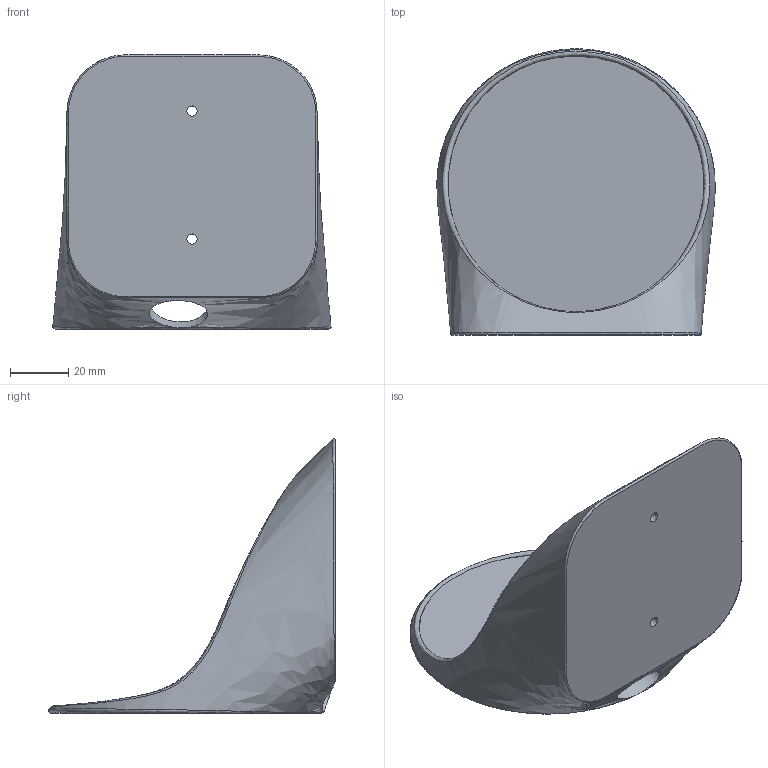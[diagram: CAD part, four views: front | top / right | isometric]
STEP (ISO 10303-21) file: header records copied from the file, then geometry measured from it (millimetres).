
FILE_DESCRIPTION(/* description */ (''),/* implementation_level */ '2;1');
FILE_NAME(/* name */ '/var/folders/zr/q7qmq9h575d8fb11zs4zv4yr0000gn/T/com.autodesk.mas.fusion360/Neutron/f92defc6-1cca-4b0e-8c0c-8bc9854e9e21.stp',/* time_stamp */ '2017-12-28T17:29:31-08:00',/* author */ ('roy.edwards@gmail.com'),/* organization */ (''),/* preprocessor_version */ 'ST-DEVELOPER v16.13',/* originating_system */ 'Autodesk Translation Framework v6.5.0.72',/* authorisation */ '');
FILE_SCHEMA (('AUTOMOTIVE_DESIGN { 1 0 10303 214 3 1 1 }'));
Length unit declared in the file: millimetre
Products named in the file (1): Echo Shelf second gen
Bounding box: 95.72 x 98.49 x 94.33 mm (x, y, z)
Volume: 127076.2 mm3; surface area: 38120.8 mm2
Topology: 1 solids, 1 shells, 14 faces, 56 edges, 42 vertices
Faces by surface type: bspline 7, cylinder 4, plane 3
Full cylindrical faces by diameter (mm): 3.5 x2
Entity records: 2731 total; most frequent: CARTESIAN_POINT 2310, ORIENTED_EDGE 110, EDGE_CURVE 55, B_SPLINE_CURVE_WITH_KNOTS 42, VERTEX_POINT 42, DIRECTION 36, EDGE_LOOP 19, AXIS2_PLACEMENT_3D 15
